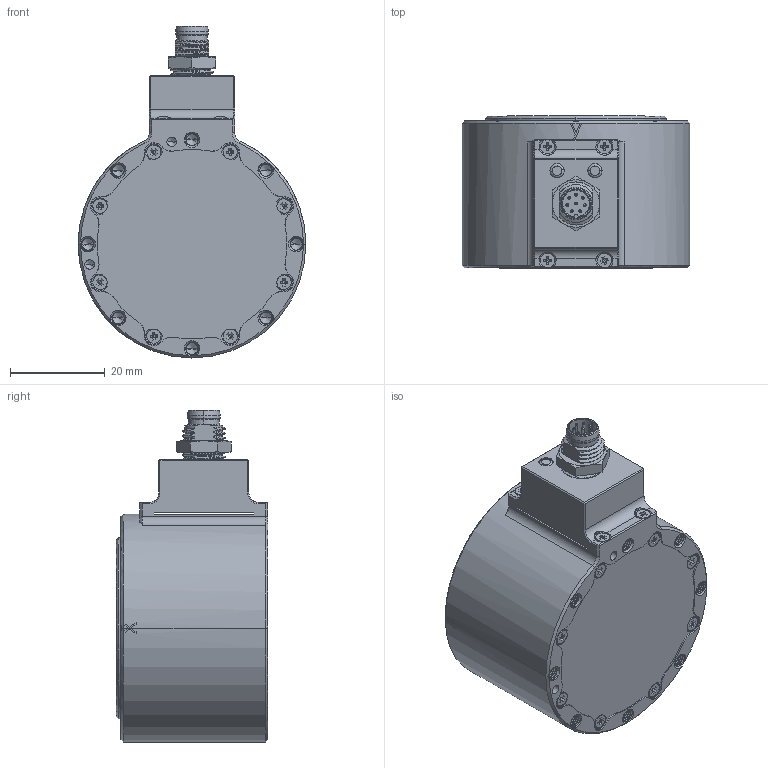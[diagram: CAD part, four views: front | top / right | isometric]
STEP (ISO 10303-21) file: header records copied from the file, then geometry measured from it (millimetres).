
FILE_DESCRIPTION (( 'STEP AP214' ), '1' );
FILE_NAME ('medusa_side.STEP', '2021-05-12T07:06:17', ( '' ), ( '' ), 'SwSTEP 2.0', 'SolidWorks 2020', '' );
FILE_SCHEMA (( 'AUTOMOTIVE_DESIGN' ));
Length unit declared in the file: millimetre
Products named in the file (1): medusa_side
Bounding box: 48 x 32 x 70 mm (x, y, z)
Volume: 57278.4 mm3; surface area: 15734.5 mm2
Topology: 7 solids, 25 shells, 1780 faces, 4740 edges, 2945 vertices
Faces by surface type: cylinder 636, plane 592, cone 375, bspline 139, torus 38
Entity records: 99077 total; most frequent: CARTESIAN_POINT 39003, ORIENTED_EDGE 9272, DIRECTION 7981, EDGE_CURVE 4636, AXIS2_PLACEMENT_3D 3034, VERTEX_POINT 2945, LINE 1913, VECTOR 1913
